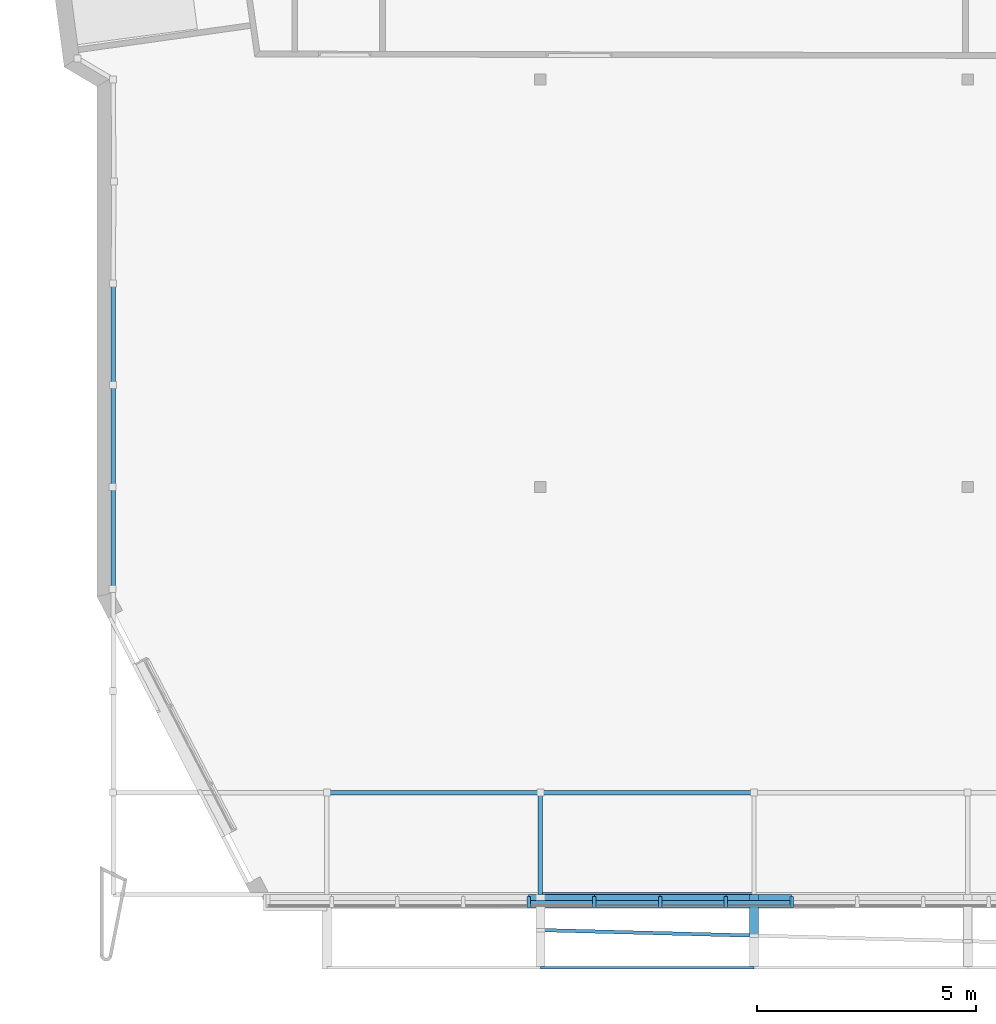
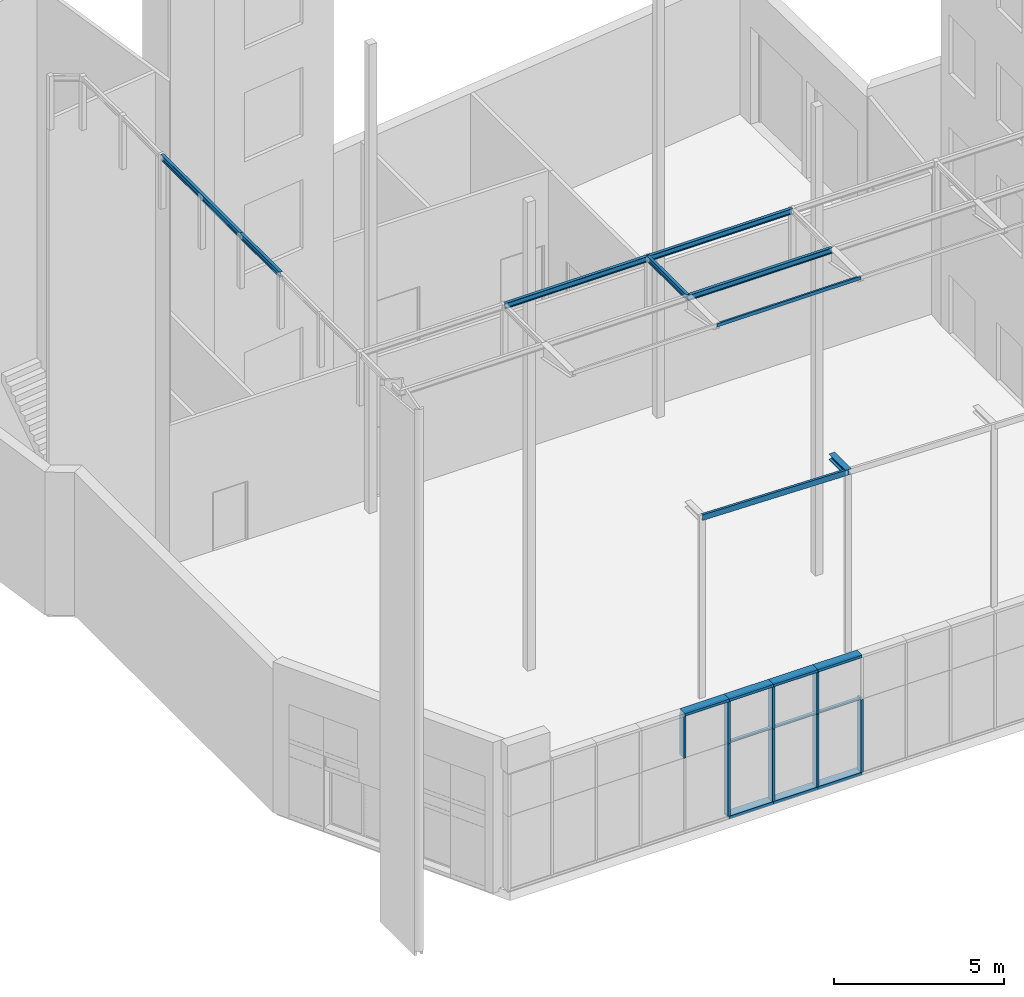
# One storey, part 6 of 40: 22 members, 9 beams, 1 element without a shape of its own.
"""IFC2X3 building model written with IfcOpenShell, lengths in metres."""

from ifc_helpers import new_model, entity, si_unit, converted_unit, money_unit, point, direction, frame, frame_2d, origin_with_axes, place, context, subcontext, project, spatial, polyline, circle_curve, parameter, trimmed, segment, composite_curve, outline, extrude, clip, halfspace, material, type_object, element, aggregate, save


model = new_model("IFC2X3")

# Units and contexts
model_context = context("Model", 3, precision=1e-05, world=origin_with_axes(), true_north=direction((0.0, 1.0)))
body_context = subcontext(model_context, "Body", "Model", "MODEL_VIEW")
ifc_project = project(units=[si_unit("LENGTHUNIT", "METRE"), si_unit("AREAUNIT", "SQUARE_METRE"), si_unit("VOLUMEUNIT", "CUBIC_METRE"), converted_unit("PLANEANGLEUNIT", "DEGREE", entity("IfcPlaneAngleMeasure", 0.0174532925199), si_unit("PLANEANGLEUNIT", "RADIAN"), dimensions=[0, 0, 0, 0, 0, 0, 0]), si_unit("SOLIDANGLEUNIT", "STERADIAN"), money_unit("EUR"), converted_unit("TIMEUNIT", "Year", entity("IfcTimeMeasure", 31556926.0), si_unit("TIMEUNIT", "SECOND"), dimensions=[0, 0, 0, 0, 0, 0, 0]), si_unit("MASSUNIT", "GRAM"), si_unit("THERMODYNAMICTEMPERATUREUNIT", "DEGREE_CELSIUS"), si_unit("LUMINOUSINTENSITYUNIT", "LUMEN")], contexts=[model_context])

# Site, building, storey
site_placement = place(None, origin_with_axes())
site = spatial("IfcSite", under=ifc_project, at=site_placement, Name="Undefined", CompositionType="ELEMENT")
building_placement = place(site_placement, origin_with_axes())
building = spatial("IfcBuilding", under=site, at=building_placement, Name="Undefined", CompositionType="ELEMENT")
storey_placement = place(building_placement, origin_with_axes())
storey = spatial("IfcBuildingStorey", under=building, at=storey_placement, Name="Rez de chauss\x8ee", CompositionType="ELEMENT", Elevation=0.0)

# Beams
ifc_material_1 = material(Name="STEEL/S235JRG2 3386696625")
beam_type_1 = type_object("IfcBeamType", Name="IPE200", PredefinedType="NOTDEFINED")
beam_1_placement = place(storey_placement, frame((0.0, 13.9499999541, 19.025), z_axis=(0.0, 0.0, 1.0), x_axis=(-1.0, 0.0, 0.0)))
element("IfcBeam", 1, at=beam_1_placement, inside=storey, type_object=beam_type_1, material=ifc_material_1, Name="Poutre", ObjectType="BEAM", context=body_context, shape_type="SweptSolid", body=[
    extrude(outline(composite_curve([segment(polyline([(0.05, -0.1), (0.05, -0.0915), (0.0147999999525, -0.0915)]), True, "CONTINUOUS"), segment(trimmed(circle_curve(frame_2d((0.0147999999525, -0.0795), x_axis=(-1.0, 0.0)), 0.012), [point((0.0147999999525, -0.0915)), parameter(90.0)], [point((0.0027999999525, -0.0795)), parameter(0.0)], False, "CARTESIAN"), True, "CONTINUOUS"), segment(polyline([(0.0027999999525, -0.0795), (0.0027999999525, 0.0795)]), True, "CONTINUOUS"), segment(trimmed(circle_curve(frame_2d((0.0147999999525, 0.0795), x_axis=(0.0, 1.0)), 0.012), [point((0.0027999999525, 0.0795)), parameter(90.0)], [point((0.0147999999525, 0.0915)), parameter(0.0)], False, "CARTESIAN"), True, "CONTINUOUS"), segment(polyline([(0.0147999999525, 0.0915), (0.05, 0.0915), (0.05, 0.1), (-0.05, 0.1), (-0.05, 0.0915), (-0.0147999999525, 0.0915)]), True, "CONTINUOUS"), segment(trimmed(circle_curve(frame_2d((-0.0147999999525, 0.0795), x_axis=(1.0, 0.0)), 0.012), [point((-0.0147999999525, 0.0915)), parameter(90.0)], [point((-0.0027999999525, 0.0795)), parameter(0.0)], False, "CARTESIAN"), True, "CONTINUOUS"), segment(polyline([(-0.0027999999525, 0.0795), (-0.0027999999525, -0.0795)]), True, "CONTINUOUS"), segment(trimmed(circle_curve(frame_2d((-0.0147999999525, -0.0795), x_axis=(0.0, -1.0)), 0.012), [point((-0.0027999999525, -0.0795)), parameter(90.0)], [point((-0.0147999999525, -0.0915)), parameter(0.0)], False, "CARTESIAN"), True, "CONTINUOUS"), segment(polyline([(-0.0147999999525, -0.0915), (-0.05, -0.0915), (-0.05, -0.1), (0.05, -0.1)]), True, "CONTINUOUS")], self_intersect=False)), frame((0.0, 4.64999999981, 0.0), z_axis=(0.0, -1.0, 0.0), x_axis=(1.0, 0.0, 0.0)), (0.0, 0.0, 1.0), 4.64999999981),
])
beam_2_placement = place(storey_placement, frame((9.74999999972, 2.3868329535e-10, 19.025), z_axis=(0.0, 0.0, 1.0), x_axis=(1.0, 0.0, 0.0)))
element("IfcBeam", 2, at=beam_2_placement, inside=storey, type_object=beam_type_1, material=ifc_material_1, Name="Poutre", ObjectType="BEAM", context=body_context, shape_type="SweptSolid", body=[
    extrude(outline(composite_curve([segment(polyline([(0.05, -0.1), (0.05, -0.0915), (0.0147999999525, -0.0915)]), True, "CONTINUOUS"), segment(trimmed(circle_curve(frame_2d((0.0147999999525, -0.0795), x_axis=(-1.0, 0.0)), 0.012), [point((0.0147999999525, -0.0915)), parameter(90.0)], [point((0.0027999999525, -0.0795)), parameter(0.0)], False, "CARTESIAN"), True, "CONTINUOUS"), segment(polyline([(0.0027999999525, -0.0795), (0.0027999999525, 0.0795)]), True, "CONTINUOUS"), segment(trimmed(circle_curve(frame_2d((0.0147999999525, 0.0795), x_axis=(0.0, 1.0)), 0.012), [point((0.0027999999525, 0.0795)), parameter(90.0)], [point((0.0147999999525, 0.0915)), parameter(0.0)], False, "CARTESIAN"), True, "CONTINUOUS"), segment(polyline([(0.0147999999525, 0.0915), (0.05, 0.0915), (0.05, 0.1), (-0.05, 0.1), (-0.05, 0.0915), (-0.0147999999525, 0.0915)]), True, "CONTINUOUS"), segment(trimmed(circle_curve(frame_2d((-0.0147999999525, 0.0795), x_axis=(1.0, 0.0)), 0.012), [point((-0.0147999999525, 0.0915)), parameter(90.0)], [point((-0.0027999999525, 0.0795)), parameter(0.0)], False, "CARTESIAN"), True, "CONTINUOUS"), segment(polyline([(-0.0027999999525, 0.0795), (-0.0027999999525, -0.0795)]), True, "CONTINUOUS"), segment(trimmed(circle_curve(frame_2d((-0.0147999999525, -0.0795), x_axis=(0.0, -1.0)), 0.012), [point((-0.0027999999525, -0.0795)), parameter(90.0)], [point((-0.0147999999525, -0.0915)), parameter(0.0)], False, "CARTESIAN"), True, "CONTINUOUS"), segment(polyline([(-0.0147999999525, -0.0915), (-0.05, -0.0915), (-0.05, -0.1), (0.05, -0.1)]), True, "CONTINUOUS")], self_intersect=False)), frame((0.0, 2.32499999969, 0.0), z_axis=(0.0, -1.0, 0.0), x_axis=(1.0, 0.0, 0.0)), (0.0, 0.0, 1.0), 2.32499999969),
])
beam_3_placement = place(storey_placement, frame((4.87500000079, 2.32499999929, 19.025), z_axis=(0.0, 0.0, 1.0), x_axis=(0.0, -1.0, 0.0)))
element("IfcBeam", 3, at=beam_3_placement, inside=storey, type_object=beam_type_1, material=ifc_material_1, Name="Poutre", ObjectType="BEAM", context=body_context, shape_type="SweptSolid", body=[
    extrude(outline(composite_curve([segment(polyline([(0.05, -0.1), (0.05, -0.0915), (0.0147999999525, -0.0915)]), True, "CONTINUOUS"), segment(trimmed(circle_curve(frame_2d((0.0147999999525, -0.0795), x_axis=(-1.0, 0.0)), 0.012), [point((0.0147999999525, -0.0915)), parameter(90.0)], [point((0.0027999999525, -0.0795)), parameter(0.0)], False, "CARTESIAN"), True, "CONTINUOUS"), segment(polyline([(0.0027999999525, -0.0795), (0.0027999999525, 0.0795)]), True, "CONTINUOUS"), segment(trimmed(circle_curve(frame_2d((0.0147999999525, 0.0795), x_axis=(0.0, 1.0)), 0.012), [point((0.0027999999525, 0.0795)), parameter(90.0)], [point((0.0147999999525, 0.0915)), parameter(0.0)], False, "CARTESIAN"), True, "CONTINUOUS"), segment(polyline([(0.0147999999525, 0.0915), (0.05, 0.0915), (0.05, 0.1), (-0.05, 0.1), (-0.05, 0.0915), (-0.0147999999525, 0.0915)]), True, "CONTINUOUS"), segment(trimmed(circle_curve(frame_2d((-0.0147999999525, 0.0795), x_axis=(1.0, 0.0)), 0.012), [point((-0.0147999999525, 0.0915)), parameter(90.0)], [point((-0.0027999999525, 0.0795)), parameter(0.0)], False, "CARTESIAN"), True, "CONTINUOUS"), segment(polyline([(-0.0027999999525, 0.0795), (-0.0027999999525, -0.0795)]), True, "CONTINUOUS"), segment(trimmed(circle_curve(frame_2d((-0.0147999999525, -0.0795), x_axis=(0.0, -1.0)), 0.012), [point((-0.0027999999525, -0.0795)), parameter(90.0)], [point((-0.0147999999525, -0.0915)), parameter(0.0)], False, "CARTESIAN"), True, "CONTINUOUS"), segment(polyline([(-0.0147999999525, -0.0915), (-0.05, -0.0915), (-0.05, -0.1), (0.05, -0.1)]), True, "CONTINUOUS")], self_intersect=False)), frame((0.0, 4.875, 0.0), z_axis=(0.0, -1.0, 0.0), x_axis=(1.0, 0.0, 0.0)), (0.0, 0.0, 1.0), 4.875),
])
beam_4_placement = place(storey_placement, frame((9.75000000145, 2.32499999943, 19.025), z_axis=(0.0, 0.0, 1.0), x_axis=(0.0, -1.0, 0.0)))
element("IfcBeam", 4, at=beam_4_placement, inside=storey, type_object=beam_type_1, material=ifc_material_1, Name="Poutre", ObjectType="BEAM", context=body_context, shape_type="SweptSolid", body=[
    extrude(outline(composite_curve([segment(polyline([(0.05, -0.1), (0.05, -0.0915), (0.0147999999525, -0.0915)]), True, "CONTINUOUS"), segment(trimmed(circle_curve(frame_2d((0.0147999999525, -0.0795), x_axis=(-1.0, 0.0)), 0.012), [point((0.0147999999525, -0.0915)), parameter(90.0)], [point((0.0027999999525, -0.0795)), parameter(0.0)], False, "CARTESIAN"), True, "CONTINUOUS"), segment(polyline([(0.0027999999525, -0.0795), (0.0027999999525, 0.0795)]), True, "CONTINUOUS"), segment(trimmed(circle_curve(frame_2d((0.0147999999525, 0.0795), x_axis=(0.0, 1.0)), 0.012), [point((0.0027999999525, 0.0795)), parameter(90.0)], [point((0.0147999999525, 0.0915)), parameter(0.0)], False, "CARTESIAN"), True, "CONTINUOUS"), segment(polyline([(0.0147999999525, 0.0915), (0.05, 0.0915), (0.05, 0.1), (-0.05, 0.1), (-0.05, 0.0915), (-0.0147999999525, 0.0915)]), True, "CONTINUOUS"), segment(trimmed(circle_curve(frame_2d((-0.0147999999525, 0.0795), x_axis=(1.0, 0.0)), 0.012), [point((-0.0147999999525, 0.0915)), parameter(90.0)], [point((-0.0027999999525, 0.0795)), parameter(0.0)], False, "CARTESIAN"), True, "CONTINUOUS"), segment(polyline([(-0.0027999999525, 0.0795), (-0.0027999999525, -0.0795)]), True, "CONTINUOUS"), segment(trimmed(circle_curve(frame_2d((-0.0147999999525, -0.0795), x_axis=(0.0, -1.0)), 0.012), [point((-0.0027999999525, -0.0795)), parameter(90.0)], [point((-0.0147999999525, -0.0915)), parameter(0.0)], False, "CARTESIAN"), True, "CONTINUOUS"), segment(polyline([(-0.0147999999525, -0.0915), (-0.05, -0.0915), (-0.05, -0.1), (0.05, -0.1)]), True, "CONTINUOUS")], self_intersect=False)), frame((0.0, 4.87499999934, 0.0), z_axis=(0.0, -1.0, 0.0), x_axis=(1.0, 0.0, 0.0)), (0.0, 0.0, 1.0), 4.87499999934),
])
beam_5_placement = place(storey_placement, frame((9.75000061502, -2.61818040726e-10, 19.025), z_axis=(0.0, 0.0, 1.0), x_axis=(0.0, -1.0, 0.0)))
element("IfcBeam", 5, at=beam_5_placement, inside=storey, type_object=beam_type_1, material=ifc_material_1, Name="Poutre", ObjectType="BEAM", context=body_context, shape_type="SweptSolid", body=[
    extrude(outline(composite_curve([segment(polyline([(0.05, -0.1), (0.05, -0.0915), (0.0147999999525, -0.0915)]), True, "CONTINUOUS"), segment(trimmed(circle_curve(frame_2d((0.0147999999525, -0.0795), x_axis=(-1.0, 0.0)), 0.012), [point((0.0147999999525, -0.0915)), parameter(90.0)], [point((0.0027999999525, -0.0795)), parameter(0.0)], False, "CARTESIAN"), True, "CONTINUOUS"), segment(polyline([(0.0027999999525, -0.0795), (0.0027999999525, 0.0795)]), True, "CONTINUOUS"), segment(trimmed(circle_curve(frame_2d((0.0147999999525, 0.0795), x_axis=(0.0, 1.0)), 0.012), [point((0.0027999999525, 0.0795)), parameter(90.0)], [point((0.0147999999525, 0.0915)), parameter(0.0)], False, "CARTESIAN"), True, "CONTINUOUS"), segment(polyline([(0.0147999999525, 0.0915), (0.05, 0.0915), (0.05, 0.1), (-0.05, 0.1), (-0.05, 0.0915), (-0.0147999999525, 0.0915)]), True, "CONTINUOUS"), segment(trimmed(circle_curve(frame_2d((-0.0147999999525, 0.0795), x_axis=(1.0, 0.0)), 0.012), [point((-0.0147999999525, 0.0915)), parameter(90.0)], [point((-0.0027999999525, 0.0795)), parameter(0.0)], False, "CARTESIAN"), True, "CONTINUOUS"), segment(polyline([(-0.0027999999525, 0.0795), (-0.0027999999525, -0.0795)]), True, "CONTINUOUS"), segment(trimmed(circle_curve(frame_2d((-0.0147999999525, -0.0795), x_axis=(0.0, -1.0)), 0.012), [point((-0.0027999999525, -0.0795)), parameter(90.0)], [point((-0.0147999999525, -0.0915)), parameter(0.0)], False, "CARTESIAN"), True, "CONTINUOUS"), segment(polyline([(-0.0147999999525, -0.0915), (-0.05, -0.0915), (-0.05, -0.1), (0.05, -0.1)]), True, "CONTINUOUS")], self_intersect=False)), frame((0.0, 4.875, 0.0), z_axis=(0.0, -1.0, 0.0), x_axis=(1.0, 0.0, 0.0)), (0.0, 0.0, 1.0), 4.875),
])
beam_6_placement = place(storey_placement, frame((-5.4838493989e-10, 9.30000210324, 19.025), z_axis=(0.0, 0.0, 1.0), x_axis=(-0.999999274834, -0.00120429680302, 0.0)))
element("IfcBeam", 6, at=beam_6_placement, inside=storey, type_object=beam_type_1, material=ifc_material_1, Name="Poutre", ObjectType="BEAM", context=body_context, shape_type="Clipping", body=[
    clip(clip(clip(extrude(outline(composite_curve([segment(polyline([(0.05, -0.1), (0.05, -0.0915), (0.0147999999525, -0.0915)]), True, "CONTINUOUS"), segment(trimmed(circle_curve(frame_2d((0.0147999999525, -0.0795), x_axis=(-1.0, 0.0)), 0.012), [point((0.0147999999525, -0.0915)), parameter(90.0)], [point((0.0027999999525, -0.0795)), parameter(0.0)], False, "CARTESIAN"), True, "CONTINUOUS"), segment(polyline([(0.0027999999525, -0.0795), (0.0027999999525, 0.0795)]), True, "CONTINUOUS"), segment(trimmed(circle_curve(frame_2d((0.0147999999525, 0.0795), x_axis=(0.0, 1.0)), 0.012), [point((0.0027999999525, 0.0795)), parameter(90.0)], [point((0.0147999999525, 0.0915)), parameter(0.0)], False, "CARTESIAN"), True, "CONTINUOUS"), segment(polyline([(0.0147999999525, 0.0915), (0.05, 0.0915), (0.05, 0.1), (-0.05, 0.1), (-0.05, 0.0915), (-0.0147999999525, 0.0915)]), True, "CONTINUOUS"), segment(trimmed(circle_curve(frame_2d((-0.0147999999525, 0.0795), x_axis=(1.0, 0.0)), 0.012), [point((-0.0147999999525, 0.0915)), parameter(90.0)], [point((-0.0027999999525, 0.0795)), parameter(0.0)], False, "CARTESIAN"), True, "CONTINUOUS"), segment(polyline([(-0.0027999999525, 0.0795), (-0.0027999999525, -0.0795)]), True, "CONTINUOUS"), segment(trimmed(circle_curve(frame_2d((-0.0147999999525, -0.0795), x_axis=(0.0, -1.0)), 0.012), [point((-0.0027999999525, -0.0795)), parameter(90.0)], [point((-0.0147999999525, -0.0915)), parameter(0.0)], False, "CARTESIAN"), True, "CONTINUOUS"), segment(polyline([(-0.0147999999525, -0.0915), (-0.05, -0.0915), (-0.05, -0.1), (0.05, -0.1)]), True, "CONTINUOUS")], self_intersect=False)), frame((0.0, 2.32501186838, 2.7900134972e-05), z_axis=(0.0, -0.999999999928, -1.19999967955e-05), x_axis=(1.0, 0.0, 0.0)), (0.0, 0.0, 1.0), 2.32501526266), halfspace(frame((0.0, 3.39411164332e-06, 0.0), z_axis=(0.0, 0.999999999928, 1.19999967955e-05), x_axis=(0.0, -1.19999967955e-05, 0.999999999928)), True)), halfspace(frame((0.0, 2.32500339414, 2.79000332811e-05), z_axis=(0.0, -0.999999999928, -1.19999967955e-05), x_axis=(0.0, 1.19999967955e-05, -0.999999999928)), True)), halfspace(frame((0.0, 2.32500847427, 0.0), z_axis=(0.0, -1.0, 0.0), x_axis=(0.0, 0.0, -1.0)), True)),
])
beam_type_2 = type_object("IfcBeamType", Name="UPE200", PredefinedType="NOTDEFINED")
beam_7_placement = place(storey_placement, frame((9.75103544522, -0.812244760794, 11.65), z_axis=(0.0, 0.0, 1.0), x_axis=(-0.0258861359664, -0.999664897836, 0.0)))
element("IfcBeam", 7, at=beam_7_placement, inside=storey, type_object=beam_type_2, material=ifc_material_1, Name="BEAM", ObjectType="BEAM", context=body_context, shape_type="SweptSolid", body=[
    extrude(outline(composite_curve([segment(polyline([(-0.04, -0.1), (0.04, -0.1), (0.04, -0.089), (-0.021, -0.089)]), True, "CONTINUOUS"), segment(trimmed(circle_curve(frame_2d((-0.021, -0.076), x_axis=(-1.0, 0.0)), 0.013), [point((-0.021, -0.089)), parameter(90.0)], [point((-0.034, -0.076)), parameter(0.0)], False, "CARTESIAN"), True, "CONTINUOUS"), segment(polyline([(-0.034, -0.076), (-0.034, 0.076)]), True, "CONTINUOUS"), segment(trimmed(circle_curve(frame_2d((-0.021, 0.076), x_axis=(0.0, 1.0)), 0.013), [point((-0.034, 0.076)), parameter(90.0)], [point((-0.021, 0.089)), parameter(0.0)], False, "CARTESIAN"), True, "CONTINUOUS"), segment(polyline([(-0.021, 0.089), (0.04, 0.089), (0.04, 0.1), (-0.04, 0.1), (-0.04, -0.1)]), True, "CONTINUOUS")], self_intersect=False)), frame((0.0, 4.87663417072, 0.0), z_axis=(0.0, -1.0, 0.0), x_axis=(-1.0, 0.0, 0.0)), (0.0, 0.0, 1.0), 4.87663417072),
])
beam_type_3 = type_object("IfcBeamType", Name="UPE120", PredefinedType="NOTDEFINED")
beam_8_placement = place(storey_placement, frame((9.7499999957, -1.67000000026, 19.045), z_axis=(0.0, 0.0, 1.0), x_axis=(0.0, -1.0, 0.0)))
element("IfcBeam", 8, at=beam_8_placement, inside=storey, type_object=beam_type_3, material=ifc_material_1, Name="Poutre", ObjectType="BEAM", context=body_context, shape_type="SweptSolid", body=[
    extrude(outline(composite_curve([segment(polyline([(-0.03, -0.06), (0.03, -0.06), (0.03, -0.052), (-0.013, -0.052)]), True, "CONTINUOUS"), segment(trimmed(circle_curve(frame_2d((-0.013, -0.04), x_axis=(-1.0, 0.0)), 0.012), [point((-0.013, -0.052)), parameter(90.0)], [point((-0.025, -0.04)), parameter(0.0)], False, "CARTESIAN"), True, "CONTINUOUS"), segment(polyline([(-0.025, -0.04), (-0.025, 0.04)]), True, "CONTINUOUS"), segment(trimmed(circle_curve(frame_2d((-0.013, 0.04), x_axis=(0.0, 1.0)), 0.012), [point((-0.025, 0.04)), parameter(90.0)], [point((-0.013, 0.052)), parameter(0.0)], False, "CARTESIAN"), True, "CONTINUOUS"), segment(polyline([(-0.013, 0.052), (0.03, 0.052), (0.03, 0.06), (-0.03, 0.06), (-0.03, -0.06)]), True, "CONTINUOUS")], self_intersect=False)), frame((0.0, 4.87499951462, 0.0), z_axis=(0.0, -1.0, 0.0), x_axis=(-1.0, 0.0, 0.0)), (0.0, 0.0, 1.0), 4.87499951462),
])
beam_type_4 = type_object("IfcBeamType", Name="HEB200", PredefinedType="NOTDEFINED")
beam_9_placement = place(storey_placement, frame((14.6249999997, -1.20532361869e-10, 11.65), z_axis=(0.0, 0.0, 1.0), x_axis=(-1.0, 0.0, 0.0)))
element("IfcBeam", 9, at=beam_9_placement, inside=storey, type_object=beam_type_4, material=ifc_material_1, Name="BEAM", ObjectType="BEAM", context=body_context, shape_type="SweptSolid", body=[
    extrude(outline(composite_curve([segment(polyline([(0.1, -0.1), (0.1, -0.085), (0.0225, -0.085)]), True, "CONTINUOUS"), segment(trimmed(circle_curve(frame_2d((0.0225, -0.067), x_axis=(-1.0, 0.0)), 0.018), [point((0.0225, -0.085)), parameter(90.0)], [point((0.0045, -0.067)), parameter(0.0)], False, "CARTESIAN"), True, "CONTINUOUS"), segment(polyline([(0.0045, -0.067), (0.0045, 0.067)]), True, "CONTINUOUS"), segment(trimmed(circle_curve(frame_2d((0.0225, 0.067), x_axis=(0.0, 1.0)), 0.018), [point((0.0045, 0.067)), parameter(90.0)], [point((0.0225, 0.085)), parameter(0.0)], False, "CARTESIAN"), True, "CONTINUOUS"), segment(polyline([(0.0225, 0.085), (0.1, 0.085), (0.1, 0.1), (-0.1, 0.1), (-0.1, 0.085), (-0.0225, 0.085)]), True, "CONTINUOUS"), segment(trimmed(circle_curve(frame_2d((-0.0225, 0.067), x_axis=(1.0, 0.0)), 0.018), [point((-0.0225, 0.085)), parameter(90.0)], [point((-0.0045, 0.067)), parameter(0.0)], False, "CARTESIAN"), True, "CONTINUOUS"), segment(polyline([(-0.0045, 0.067), (-0.0045, -0.067)]), True, "CONTINUOUS"), segment(trimmed(circle_curve(frame_2d((-0.0225, -0.067), x_axis=(0.0, -1.0)), 0.018), [point((-0.0045, -0.067)), parameter(90.0)], [point((-0.0225, -0.085)), parameter(0.0)], False, "CARTESIAN"), True, "CONTINUOUS"), segment(polyline([(-0.0225, -0.085), (-0.1, -0.085), (-0.1, -0.1), (0.1, -0.1)]), True, "CONTINUOUS")], self_intersect=False)), frame((0.0, 0.978468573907, 0.0), z_axis=(0.0, -1.0, 0.0), x_axis=(1.0, 0.0, 0.0)), (0.0, 0.0, 1.0), 0.978468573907),
])

# Curtain wall, members
curtain_wall_type = type_object("IfcCurtainWallType", Name="Type de mur-rideau", PredefinedType="NOTDEFINED")
curtain_wall_placement = place(storey_placement, frame((61.0415862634, -0.249999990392, 0.1), z_axis=(0.0, 0.0, 1.0), x_axis=(1.0, 0.0, 0.0)))
curtain_wall = element("IfcCurtainWall", 10, at=curtain_wall_placement, inside=storey, type_object=curtain_wall_type, Name="CurtainWall_02", ObjectType="CURTAIN WALL")
ifc_material_2 = material(Name="25 % 359672764")
member_type_1 = type_object("IfcMemberType", Name="Cadre 100 x 300", PredefinedType="NOTDEFINED")
member_1_placement = place(curtain_wall_placement, frame((-50.0584137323, 8.6134102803e-07, 0.0), z_axis=(1.0, -1.72067183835e-08, 0.0), x_axis=(0.0, 0.0, 1.0)))
member_1 = element("IfcMember", 11, at=member_1_placement, type_object=member_type_1, material=ifc_material_2, Name="Frame-Bnd-938", context=body_context, shape_type="SweptSolid", body=[
    extrude(outline(polyline([(-0.25, -0.1), (0.05, -0.1), (0.05, 0.0), (-0.25, 0.0), (-0.25, -0.1)])), frame((0.0, 0.0, 0.0), z_axis=(0.0, 0.0, 1.0), x_axis=(0.0, 1.0, 0.0)), (0.0, 0.0, 1.0), 1.5),
])
member_2_placement = place(curtain_wall_placement, frame((-48.5584137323, 8.35530950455e-07, 0.0), z_axis=(1.0, -1.7206718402e-08, 0.0), x_axis=(0.0, 0.0, 1.0)))
member_2 = element("IfcMember", 12, at=member_2_placement, type_object=member_type_1, material=ifc_material_2, Name="Frame-Bnd-937", context=body_context, shape_type="SweptSolid", body=[
    extrude(outline(polyline([(-0.25, -0.1), (0.05, -0.1), (0.05, 0.0), (-0.25, 0.0), (-0.25, -0.1)])), frame((0.0, 0.0, 0.0), z_axis=(0.0, 0.0, 1.0), x_axis=(0.0, 1.0, 0.0)), (0.0, 0.0, 1.0), 1.5),
])
member_3_placement = place(curtain_wall_placement, frame((-47.0584137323, 8.09720872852e-07, 0.0), z_axis=(1.0, -1.72067183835e-08, 0.0), x_axis=(0.0, 0.0, 1.0)))
member_3 = element("IfcMember", 13, at=member_3_placement, type_object=member_type_1, material=ifc_material_2, Name="Frame-Bnd-936", context=body_context, shape_type="SweptSolid", body=[
    extrude(outline(polyline([(-0.25, -0.1), (0.05, -0.1), (0.05, 0.0), (-0.25, 0.0), (-0.25, -0.1)])), frame((0.0, 0.0, 0.0), z_axis=(0.0, 0.0, 1.0), x_axis=(0.0, 1.0, 0.0)), (0.0, 0.0, 1.0), 1.5),
])
member_4_placement = place(curtain_wall_placement, frame((-45.5584137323, 7.83910795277e-07, 4.3), z_axis=(-1.0, 1.72067183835e-08, 0.0), x_axis=(0.0, 0.0, -1.0)))
member_4 = element("IfcMember", 14, at=member_4_placement, type_object=member_type_1, material=ifc_material_2, Name="Frame-Bnd-782", context=body_context, shape_type="SweptSolid", body=[
    extrude(outline(polyline([(0.25, 0.1), (-0.05, 0.1), (-0.05, 0.0), (0.25, 0.0), (0.25, 0.1)])), frame((0.0, 0.0, 0.0), z_axis=(0.0, 0.0, 1.0), x_axis=(0.0, -1.0, 0.0)), (0.0, 0.0, 1.0), 1.5),
])
member_5_placement = place(curtain_wall_placement, frame((-47.0584137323, 8.09720872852e-07, 4.3), z_axis=(-1.0, 1.7206718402e-08, 0.0), x_axis=(0.0, 0.0, -1.0)))
member_5 = element("IfcMember", 15, at=member_5_placement, type_object=member_type_1, material=ifc_material_2, Name="Frame-Bnd-781", context=body_context, shape_type="SweptSolid", body=[
    extrude(outline(polyline([(0.25, 0.1), (-0.05, 0.1), (-0.05, 0.0), (0.25, 0.0), (0.25, 0.1)])), frame((0.0, 0.0, 0.0), z_axis=(0.0, 0.0, 1.0), x_axis=(0.0, -1.0, 0.0)), (0.0, 0.0, 1.0), 1.5),
])
member_6_placement = place(curtain_wall_placement, frame((-48.5584137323, 8.35530950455e-07, 4.3), z_axis=(-1.0, 1.72067183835e-08, 0.0), x_axis=(0.0, 0.0, -1.0)))
member_6 = element("IfcMember", 16, at=member_6_placement, type_object=member_type_1, material=ifc_material_2, Name="Frame-Bnd-780", context=body_context, shape_type="SweptSolid", body=[
    extrude(outline(polyline([(0.25, 0.1), (-0.05, 0.1), (-0.05, 0.0), (0.25, 0.0), (0.25, 0.1)])), frame((0.0, 0.0, 0.0), z_axis=(0.0, 0.0, 1.0), x_axis=(0.0, -1.0, 0.0)), (0.0, 0.0, 1.0), 1.5),
])
member_7_placement = place(curtain_wall_placement, frame((-50.0584137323, 8.6134102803e-07, 4.3), z_axis=(-1.0, 1.72067183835e-08, 0.0), x_axis=(0.0, 0.0, -1.0)))
member_7 = element("IfcMember", 17, at=member_7_placement, type_object=member_type_1, material=ifc_material_2, Name="Frame-Bnd-779", context=body_context, shape_type="SweptSolid", body=[
    extrude(outline(polyline([(0.25, 0.1), (-0.05, 0.1), (-0.05, 0.0), (0.25, 0.0), (0.25, 0.1)])), frame((0.0, 0.0, 0.0), z_axis=(0.0, 0.0, 1.0), x_axis=(0.0, -1.0, 0.0)), (0.0, 0.0, 1.0), 1.5),
])
member_type_2 = type_object("IfcMemberType", Name="Montant 80 x 250", PredefinedType="NOTDEFINED")
member_8_placement = place(curtain_wall_placement, frame((-50.0584137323, 8.6134102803e-07, 0.0), z_axis=(0.0, 0.0, 1.0), x_axis=(-1.0, 1.72067183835e-08, 0.0)))
member_8 = element("IfcMember", 18, at=member_8_placement, type_object=member_type_2, material=ifc_material_2, Name="Frame-Mll-283", context=body_context, shape_type="SweptSolid", body=[
    extrude(outline(polyline([(-0.0399999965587, 0.200000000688), (-0.0400000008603, -0.0499999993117), (0.0399999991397, -0.0500000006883), (0.0400000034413, 0.199999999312), (-0.0399999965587, 0.200000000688)])), frame((0.0, 0.0, 0.1), z_axis=(0.0, 0.0, 1.0), x_axis=(-1.0, -1.72067183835e-08, 0.0)), (0.0, 0.0, 1.0), 2.6),
])
member_9_placement = place(curtain_wall_placement, frame((-48.5584137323, 8.35530950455e-07, 0.0), z_axis=(0.0, 0.0, 1.0), x_axis=(-1.0, 1.72067183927e-08, 0.0)))
member_9 = element("IfcMember", 19, at=member_9_placement, type_object=member_type_2, material=ifc_material_2, Name="Frame-Mll-283", context=body_context, shape_type="SweptSolid", body=[
    extrude(outline(polyline([(-0.0399999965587, 0.200000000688), (-0.0400000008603, -0.0499999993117), (0.0399999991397, -0.0500000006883), (0.0400000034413, 0.199999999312), (-0.0399999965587, 0.200000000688)])), frame((0.0, 0.0, 0.1), z_axis=(0.0, 0.0, 1.0), x_axis=(-1.0, -1.72067183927e-08, 0.0)), (0.0, 0.0, 1.0), 2.6),
])
member_10_placement = place(curtain_wall_placement, frame((-47.0584137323, 8.09720872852e-07, 0.0), z_axis=(0.0, 0.0, 1.0), x_axis=(-1.0, 1.72067183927e-08, 0.0)))
member_10 = element("IfcMember", 20, at=member_10_placement, type_object=member_type_2, material=ifc_material_2, Name="Frame-Mll-283", context=body_context, shape_type="SweptSolid", body=[
    extrude(outline(polyline([(-0.0399999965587, 0.200000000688), (-0.0400000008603, -0.0499999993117), (0.0399999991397, -0.0500000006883), (0.0400000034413, 0.199999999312), (-0.0399999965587, 0.200000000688)])), frame((0.0, 0.0, 0.1), z_axis=(0.0, 0.0, 1.0), x_axis=(-1.0, -1.72067183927e-08, 0.0)), (0.0, 0.0, 1.0), 2.6),
])
member_11_placement = place(curtain_wall_placement, frame((-45.5584137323, 7.83910795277e-07, 0.0), z_axis=(0.0, 0.0, 1.0), x_axis=(-1.0, 1.72067183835e-08, 0.0)))
member_11 = element("IfcMember", 21, at=member_11_placement, type_object=member_type_2, material=ifc_material_2, Name="Frame-Mll-283", context=body_context, shape_type="SweptSolid", body=[
    extrude(outline(polyline([(-0.0399999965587, 0.200000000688), (-0.0400000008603, -0.0499999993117), (0.0399999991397, -0.0500000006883), (0.0400000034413, 0.199999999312), (-0.0399999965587, 0.200000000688)])), frame((0.0, 0.0, 0.1), z_axis=(0.0, 0.0, 1.0), x_axis=(-1.0, -1.72067183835e-08, 0.0)), (0.0, 0.0, 1.0), 2.6),
])
member_12_placement = place(curtain_wall_placement, frame((-51.5584137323, 8.87151105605e-07, 2.7), z_axis=(0.0, 0.0, 1.0), x_axis=(-1.0, 1.72067183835e-08, 0.0)))
member_12 = element("IfcMember", 22, at=member_12_placement, type_object=member_type_2, material=ifc_material_2, Name="Frame-Mll-654", context=body_context, shape_type="SweptSolid", body=[
    extrude(outline(polyline([(-0.0399999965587, 0.200000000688), (-0.0400000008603, -0.0499999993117), (0.0399999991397, -0.0500000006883), (0.0400000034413, 0.199999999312), (-0.0399999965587, 0.200000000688)])), frame((0.0, 0.0, 0.0), z_axis=(0.0, 0.0, 1.0), x_axis=(-1.0, -1.72067183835e-08, 0.0)), (0.0, 0.0, 1.0), 1.5),
])
member_13_placement = place(curtain_wall_placement, frame((-50.0584137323, 8.6134102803e-07, 2.7), z_axis=(0.0, 0.0, 1.0), x_axis=(-1.0, 1.72067183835e-08, 0.0)))
member_13 = element("IfcMember", 23, at=member_13_placement, type_object=member_type_2, material=ifc_material_2, Name="Frame-Mll-655", context=body_context, shape_type="SweptSolid", body=[
    extrude(outline(polyline([(-0.0399999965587, 0.200000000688), (-0.0400000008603, -0.0499999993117), (0.0399999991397, -0.0500000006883), (0.0400000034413, 0.199999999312), (-0.0399999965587, 0.200000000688)])), frame((0.0, 0.0, 0.0), z_axis=(0.0, 0.0, 1.0), x_axis=(-1.0, -1.72067183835e-08, 0.0)), (0.0, 0.0, 1.0), 1.5),
])
member_14_placement = place(curtain_wall_placement, frame((-48.5584137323, 8.35530950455e-07, 2.7), z_axis=(0.0, 0.0, 1.0), x_axis=(-1.0, 1.72067183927e-08, 0.0)))
member_14 = element("IfcMember", 24, at=member_14_placement, type_object=member_type_2, material=ifc_material_2, Name="Frame-Mll-656", context=body_context, shape_type="SweptSolid", body=[
    extrude(outline(polyline([(-0.0399999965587, 0.200000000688), (-0.0400000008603, -0.0499999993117), (0.0399999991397, -0.0500000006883), (0.0400000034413, 0.199999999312), (-0.0399999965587, 0.200000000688)])), frame((0.0, 0.0, 0.0), z_axis=(0.0, 0.0, 1.0), x_axis=(-1.0, -1.72067183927e-08, 0.0)), (0.0, 0.0, 1.0), 1.5),
])
member_15_placement = place(curtain_wall_placement, frame((-47.0584137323, 8.09720872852e-07, 2.7), z_axis=(0.0, 0.0, 1.0), x_axis=(-1.0, 1.72067183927e-08, 0.0)))
member_15 = element("IfcMember", 25, at=member_15_placement, type_object=member_type_2, material=ifc_material_2, Name="Frame-Mll-657", context=body_context, shape_type="SweptSolid", body=[
    extrude(outline(polyline([(-0.0399999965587, 0.200000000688), (-0.0400000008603, -0.0499999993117), (0.0399999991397, -0.0500000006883), (0.0400000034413, 0.199999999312), (-0.0399999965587, 0.200000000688)])), frame((0.0, 0.0, 0.0), z_axis=(0.0, 0.0, 1.0), x_axis=(-1.0, -1.72067183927e-08, 0.0)), (0.0, 0.0, 1.0), 1.5),
])
member_type_3 = type_object("IfcMemberType", Name="Traverse 60 x 100", PredefinedType="NOTDEFINED")
member_16_placement = place(curtain_wall_placement, frame((-50.0584137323, 8.6134102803e-07, 2.7), z_axis=(1.0, -1.72067183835e-08, 0.0), x_axis=(0.0, 0.0, 1.0)))
member_16 = element("IfcMember", 26, at=member_16_placement, type_object=member_type_3, material=ifc_material_2, Name="Frame-Trs-922", context=body_context, shape_type="SweptSolid", body=[
    extrude(outline(polyline([(-0.11, -0.03), (-0.01, -0.03), (-0.01, 0.03), (-0.11, 0.03), (-0.11, -0.03)])), frame((0.0, 0.0, 0.04), z_axis=(0.0, 0.0, 1.0), x_axis=(0.0, 1.0, 0.0)), (0.0, 0.0, 1.0), 1.42),
])
member_17_placement = place(curtain_wall_placement, frame((-48.5584137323, 8.35530950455e-07, 2.7), z_axis=(1.0, -1.7206718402e-08, 0.0), x_axis=(0.0, 0.0, 1.0)))
member_17 = element("IfcMember", 27, at=member_17_placement, type_object=member_type_3, material=ifc_material_2, Name="Frame-Trs-922", context=body_context, shape_type="SweptSolid", body=[
    extrude(outline(polyline([(-0.11, -0.03), (-0.01, -0.03), (-0.01, 0.03), (-0.11, 0.03), (-0.11, -0.03)])), frame((0.0, 0.0, 0.04), z_axis=(0.0, 0.0, 1.0), x_axis=(0.0, 1.0, 0.0)), (0.0, 0.0, 1.0), 1.42),
])
member_18_placement = place(curtain_wall_placement, frame((-47.0584137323, 8.09720872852e-07, 2.7), z_axis=(1.0, -1.72067183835e-08, 0.0), x_axis=(0.0, 0.0, 1.0)))
member_18 = element("IfcMember", 28, at=member_18_placement, type_object=member_type_3, material=ifc_material_2, Name="Frame-Trs-922", context=body_context, shape_type="SweptSolid", body=[
    extrude(outline(polyline([(-0.11, -0.03), (-0.01, -0.03), (-0.01, 0.03), (-0.11, 0.03), (-0.11, -0.03)])), frame((0.0, 0.0, 0.04), z_axis=(0.0, 0.0, 1.0), x_axis=(0.0, 1.0, 0.0)), (0.0, 0.0, 1.0), 1.42),
])
member_19_placement = place(curtain_wall_placement, frame((-51.5584137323, 8.87151105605e-07, 4.2), z_axis=(1.0, -1.72067183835e-08, 0.0), x_axis=(0.0, 0.0, 1.0)))
member_19 = element("IfcMember", 29, at=member_19_placement, type_object=member_type_3, material=ifc_material_2, Name="Frame-Trs-227", context=body_context, shape_type="SweptSolid", body=[
    extrude(outline(polyline([(-0.11, -0.03), (-0.01, -0.03), (-0.01, 0.03), (-0.11, 0.03), (-0.11, -0.03)])), frame((0.0, 0.0, 0.04), z_axis=(0.0, 0.0, 1.0), x_axis=(0.0, 1.0, 0.0)), (0.0, 0.0, 1.0), 1.42),
])
member_20_placement = place(curtain_wall_placement, frame((-50.0584137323, 8.6134102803e-07, 4.2), z_axis=(1.0, -1.72067183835e-08, 0.0), x_axis=(0.0, 0.0, 1.0)))
member_20 = element("IfcMember", 30, at=member_20_placement, type_object=member_type_3, material=ifc_material_2, Name="Frame-Trs-227", context=body_context, shape_type="SweptSolid", body=[
    extrude(outline(polyline([(-0.11, -0.03), (-0.01, -0.03), (-0.01, 0.03), (-0.11, 0.03), (-0.11, -0.03)])), frame((0.0, 0.0, 0.04), z_axis=(0.0, 0.0, 1.0), x_axis=(0.0, 1.0, 0.0)), (0.0, 0.0, 1.0), 1.42),
])
member_21_placement = place(curtain_wall_placement, frame((-48.5584137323, 8.35530950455e-07, 4.2), z_axis=(1.0, -1.7206718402e-08, 0.0), x_axis=(0.0, 0.0, 1.0)))
member_21 = element("IfcMember", 31, at=member_21_placement, type_object=member_type_3, material=ifc_material_2, Name="Frame-Trs-227", context=body_context, shape_type="SweptSolid", body=[
    extrude(outline(polyline([(-0.11, -0.03), (-0.01, -0.03), (-0.01, 0.03), (-0.11, 0.03), (-0.11, -0.03)])), frame((0.0, 0.0, 0.04), z_axis=(0.0, 0.0, 1.0), x_axis=(0.0, 1.0, 0.0)), (0.0, 0.0, 1.0), 1.42),
])
member_22_placement = place(curtain_wall_placement, frame((-47.0584137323, 8.09720872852e-07, 4.2), z_axis=(1.0, -1.72067183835e-08, 0.0), x_axis=(0.0, 0.0, 1.0)))
member_22 = element("IfcMember", 32, at=member_22_placement, type_object=member_type_3, material=ifc_material_2, Name="Frame-Trs-227", context=body_context, shape_type="SweptSolid", body=[
    extrude(outline(polyline([(-0.11, -0.03), (-0.01, -0.03), (-0.01, 0.03), (-0.11, 0.03), (-0.11, -0.03)])), frame((0.0, 0.0, 0.04), z_axis=(0.0, 0.0, 1.0), x_axis=(0.0, 1.0, 0.0)), (0.0, 0.0, 1.0), 1.42),
])
aggregate(curtain_wall, [member_8, member_9, member_1, member_10, member_11, member_2, member_3, member_16, member_17, member_18, member_12, member_13, member_14, member_15, member_19, member_20, member_21, member_22, member_4, member_5, member_6, member_7])

save(model, "model.ifc")
